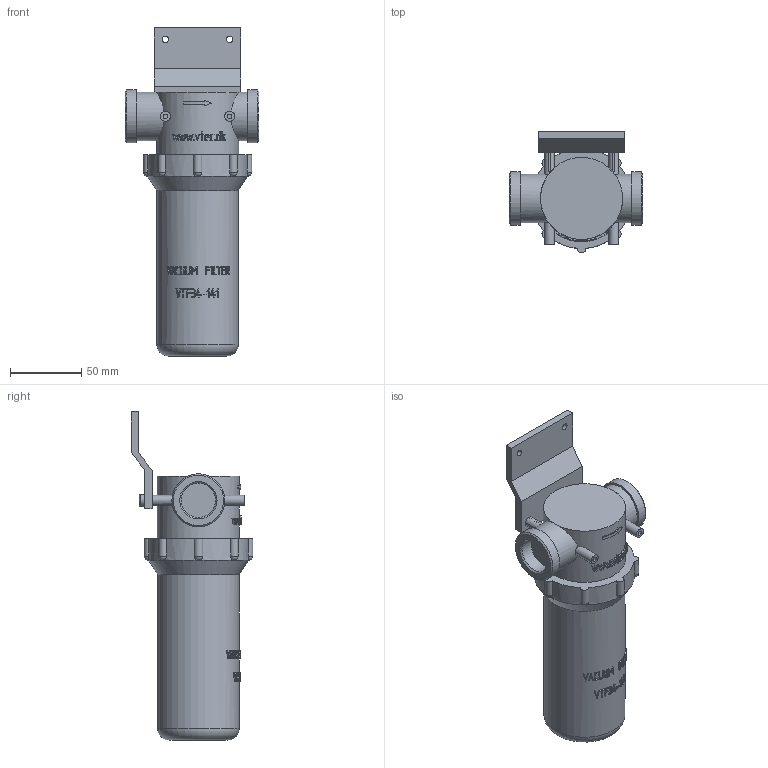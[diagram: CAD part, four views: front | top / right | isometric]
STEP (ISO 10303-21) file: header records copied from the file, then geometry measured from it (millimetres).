
FILE_DESCRIPTION( ( 'STEP AP214' ), '1' );
FILE_NAME( 'C:/撲啗紫賊-02/3D-Step File/Accessories/Vacuum Filter/VTF34-141.stp', '2006-04-24T05:54:04', ( ' ' ), ( ' ' ), 'XStep 1.0', ' ', ' ' );
FILE_SCHEMA( ( 'CONFIG_CONTROL_DESIGN) ( )' ) );
Length unit declared in the file: metre
Products named in the file (1): 1
Bounding box: 93.8 x 84.99 x 230 mm (x, y, z)
Volume: 544765.2 mm3; surface area: 61213.6 mm2
Topology: 1 solids, 1 shells, 420 faces, 1104 edges, 727 vertices
Faces by surface type: plane 227, bspline 97, cylinder 79, sphere 8, cone 6, torus 3
Full cylindrical faces by diameter (mm): 3.2 x2, 4.5 x2, 7 x4, 8 x2, 24.1 x2, 34 x2, 37.2 x2, 57 x1, 57.5 x1
Entity records: 23785 total; most frequent: CARTESIAN_POINT 10753, ORIENTED_EDGE 2108, DIRECTION 1747, EDGE_CURVE 1054, VERTEX_POINT 712, AXIS2_PLACEMENT_3D 614, LINE 519, VECTOR 519
